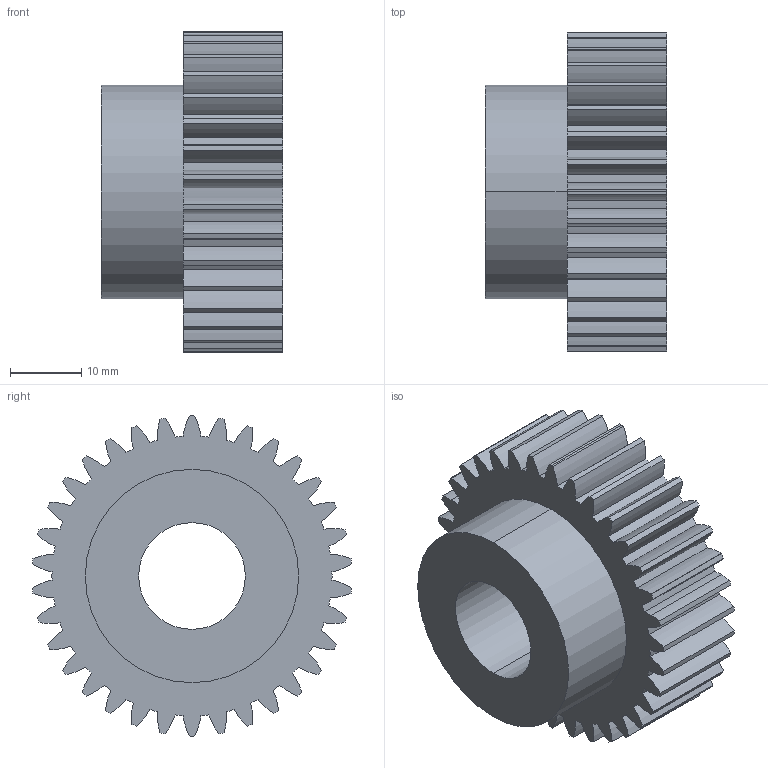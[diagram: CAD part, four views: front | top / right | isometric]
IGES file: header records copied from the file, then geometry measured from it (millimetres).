
Start section: 3D InterOp IGES (v. 2020 1.0.1), Spatial Corp. Copyright (c) 1999-2017.
Global section: file name: p125_w14_t34_b.igs; native system: Spatial Corp.; preprocessor: 3D InterOp ACIS/IGES; author: TraceParts; organization: TraceParts S.A.; date: 20220624.033521; units: millimetre
Bounding box: 25.5 x 44.87 x 45 mm (x, y, z)
Surface area: 8468.5 mm2 (no closed solid volume)
Topology: 0 solids, 0 shells, 153 faces, 900 edges, 900 vertices
Faces by surface type: revolution 150, extrusion 3
